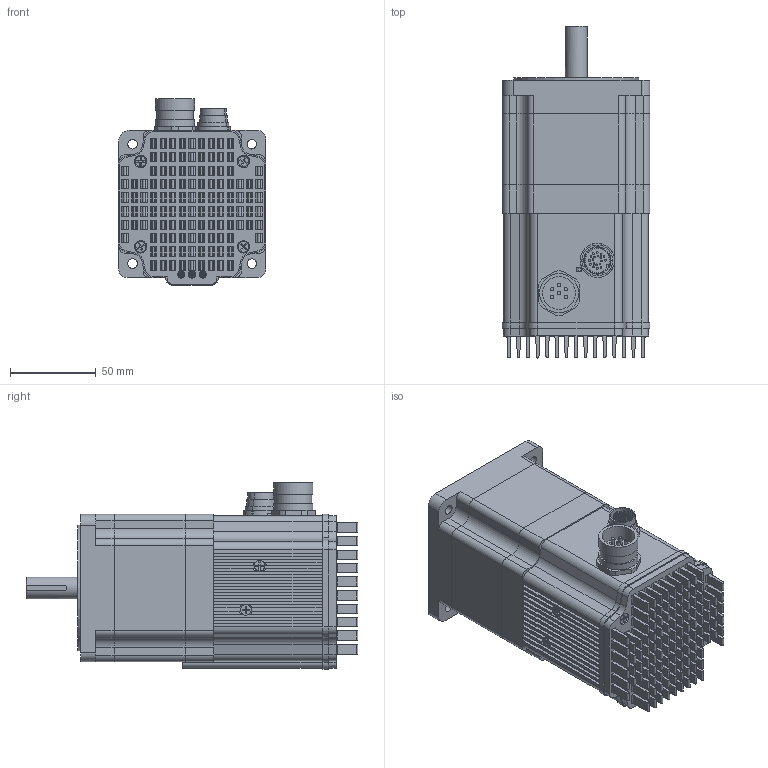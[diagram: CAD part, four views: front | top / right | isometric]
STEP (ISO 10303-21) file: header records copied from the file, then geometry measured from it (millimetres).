
FILE_DESCRIPTION(/* description */ ('Alibre Inc.'),/* implementation_level */ '2;1');
FILE_NAME(/* name */ 'export0',/* time_stamp */ '2017-08-07T13:24:14-07:00',/* author */ (''),/* organization */ (''),/* preprocessor_version */ 'ST-DEVELOPER v14',/* originating_system */ 'Alibre',/* authorisation */ '');
FILE_SCHEMA (('AUTOMOTIVE_DESIGN'));
Length unit declared in the file: centimetre
Bounding box: 86.11 x 193.56 x 108.94 mm (x, y, z)
Volume: 635853.9 mm3; surface area: 176988.6 mm2
Topology: 37 solids, 38 shells, 3057 faces, 8135 edges, 5359 vertices
Faces by surface type: plane 1950, cylinder 980, cone 45, torus 43, sphere 26, bspline 13
Full cylindrical faces by diameter (mm): 0.483 x3, 0.61 x2, 1 x19, 1.981 x6, 2.156 x5, 2.54 x3, 2.616 x8, 2.718 x3, 3.175 x11, 3.81 x3, 4.089 x8, 5.537 x4, 9.525 x2, 9.982 x2, 12.7 x1, 17.094 x1, 19.152 x1, 20.218 x2, 20.32 x1, 21.412 x1, 22.86 x2, 25.298 x1, 34.798 x1, 44.323 x1, 73.025 x1
Entity records: 82408 total; most frequent: ORIENTED_EDGE 15204, CARTESIAN_POINT 14499, DIRECTION 11658, EDGE_CURVE 7602, VERTEX_POINT 5094, VECTOR 4509, LINE 4509, AXIS2_PLACEMENT_3D 4272
